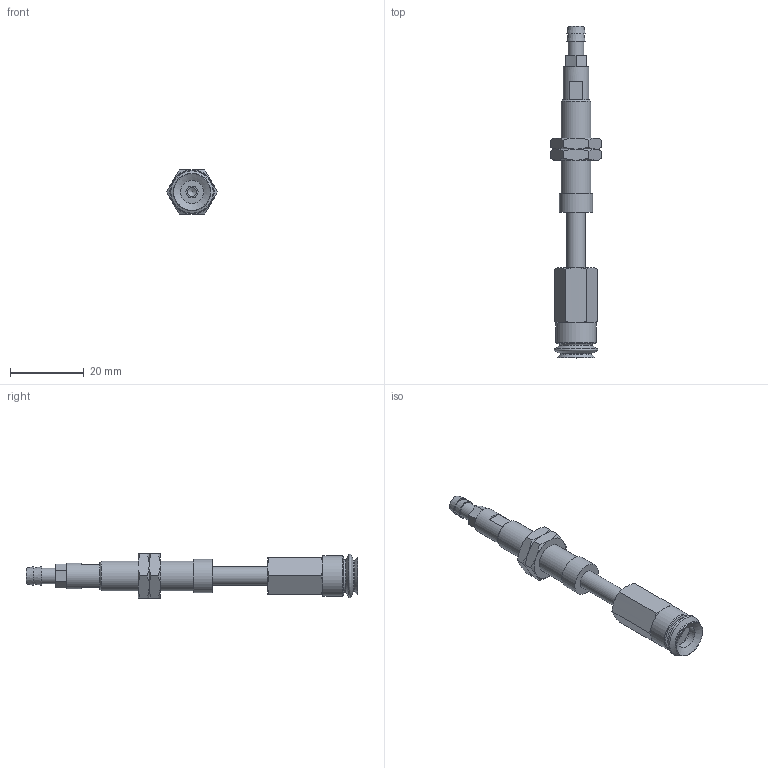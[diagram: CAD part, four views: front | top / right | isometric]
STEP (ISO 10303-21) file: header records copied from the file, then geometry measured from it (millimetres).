
FILE_DESCRIPTION(('STEP AP203'),'1');
FILE_NAME('-T.stp','2025-08-27T07:28:22',(' '),(' '),'Spatial InterOp 3D',' ',' ');
FILE_SCHEMA(('CONFIG_CONTROL_DESIGN'));
Length unit declared in the file: millimetre
Products named in the file (8): BNABPJTS-10-15-※-T; ADAPTER; NAPCTS-10-15-MBODY; Adapter-10-NAPJ; NUT-NAPJ-10-15-s; NAPJTS-10-15-FBODY; BPJG-10-※; T
Assembly tree (8 placements, depth 2):
  BNABPJTS-10-15-※-T
    ADAPTER
    NAPCTS-10-15-MBODY
    Adapter-10-NAPJ
    NUT-NAPJ-10-15-s  x2
    NAPJTS-10-15-FBODY
    BPJG-10-※
    T
Bounding box: 13.86 x 90 x 12 mm (x, y, z)
Volume: 4686.8 mm3; surface area: 5360.8 mm2
Topology: 8 solids, 8 shells, 140 faces, 290 edges, 176 vertices
Faces by surface type: plane 60, cone 54, cylinder 19, torus 7
Full cylindrical faces by diameter (mm): 2.5 x1, 3 x1, 4.134 x2, 4.3 x1, 4.6 x1, 5 x4, 6.266 x1, 7 x1, 7.188 x2, 7.8 x1, 8 x2, 9 x1, 11 x1
Entity records: 3590 total; most frequent: CARTESIAN_POINT 947, DIRECTION 480, ORIENTED_EDGE 380, AXIS2_PLACEMENT_3D 212, EDGE_CURVE 190, EDGE_LOOP 178, FACE_OUTER_BOUND 142, VERTEX_POINT 139
